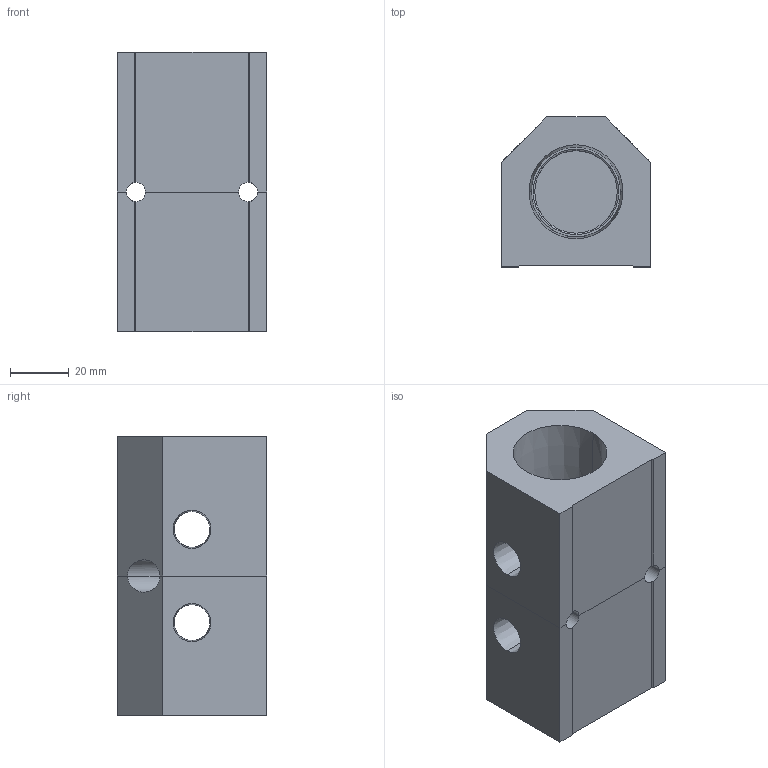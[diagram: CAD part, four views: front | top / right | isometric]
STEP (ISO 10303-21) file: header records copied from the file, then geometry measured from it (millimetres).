
FILE_DESCRIPTION (( 'STEP AP214' ), '1' );
FILE_NAME ('ALM2ACE-N4N16-95RB.STEP', '2023-11-02T06:07:04', ( '' ), ( '' ), 'SwSTEP 2.0', 'SolidWorks 2020', '' );
FILE_SCHEMA (( 'AUTOMOTIVE_DESIGN' ));
Length unit declared in the file: millimetre
Products named in the file (1): ALM2ACE-N4N16-95RB
Bounding box: 50.8 x 50.8 x 95 mm (x, y, z)
Volume: 143945.2 mm3; surface area: 37257.7 mm2
Topology: 2 solids, 2 shells, 335 faces, 879 edges, 580 vertices
Faces by surface type: plane 237, bspline 58, cylinder 20, cone 20
Entity records: 17449 total; most frequent: CARTESIAN_POINT 6531, ORIENTED_EDGE 1758, DIRECTION 1353, EDGE_CURVE 879, LINE 685, VECTOR 685, VERTEX_POINT 580, EDGE_LOOP 379
